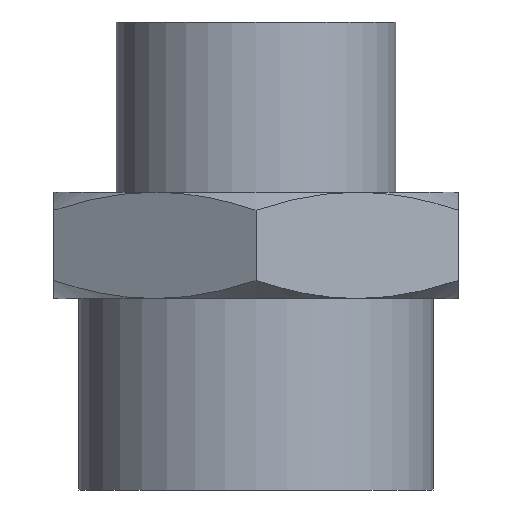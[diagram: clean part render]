
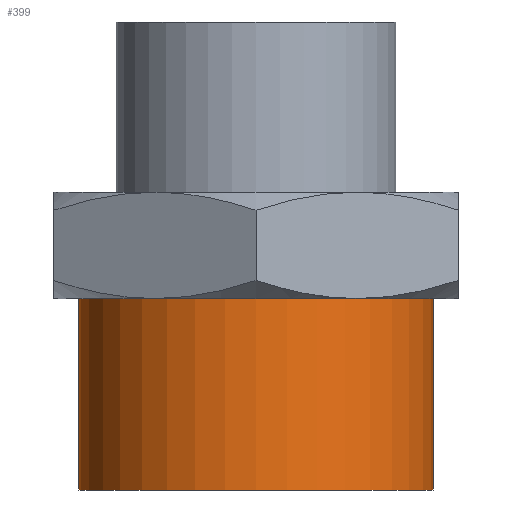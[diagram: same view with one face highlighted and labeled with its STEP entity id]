
A CAD part, front view. The second image highlights one B-rep face of the part: STEP entity #399.
In plain terms, the highlighted cylindrical face has radius 8.331 mm (diameter 16.662 mm), a full revolution.
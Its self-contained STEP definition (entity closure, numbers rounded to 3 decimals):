
#72=FACE_OUTER_BOUND('',#98,.T.);
#98=EDGE_LOOP('',(#281,#282,#283,#284,#285,#286));
#119=LINE('',#667,#128);
#128=VECTOR('',#527,8.331);
#145=CIRCLE('',#453,8.331);
#146=CIRCLE('',#454,8.331);
#147=CIRCLE('',#456,8.331);
#148=CIRCLE('',#457,8.331);
#174=VERTEX_POINT('',#661);
#175=VERTEX_POINT('',#662);
#176=VERTEX_POINT('',#666);
#177=VERTEX_POINT('',#668);
#216=EDGE_CURVE('',#174,#175,#145,.T.);
#217=EDGE_CURVE('',#175,#174,#146,.T.);
#218=EDGE_CURVE('',#175,#176,#119,.T.);
#219=EDGE_CURVE('',#177,#176,#147,.T.);
#220=EDGE_CURVE('',#176,#177,#148,.T.);
#281=ORIENTED_EDGE('',*,*,#216,.T.);
#282=ORIENTED_EDGE('',*,*,#218,.T.);
#283=ORIENTED_EDGE('',*,*,#219,.F.);
#284=ORIENTED_EDGE('',*,*,#220,.F.);
#285=ORIENTED_EDGE('',*,*,#218,.F.);
#286=ORIENTED_EDGE('',*,*,#217,.T.);
#363=CYLINDRICAL_SURFACE('',#455,8.331);
#399=ADVANCED_FACE('',(#72),#363,.T.);
#453=AXIS2_PLACEMENT_3D('',#663,#521,#522);
#454=AXIS2_PLACEMENT_3D('',#664,#523,#524);
#455=AXIS2_PLACEMENT_3D('',#665,#525,#526);
#456=AXIS2_PLACEMENT_3D('',#669,#528,#529);
#457=AXIS2_PLACEMENT_3D('',#670,#530,#531);
#521=DIRECTION('center_axis',(0.,0.,-1.));
#522=DIRECTION('ref_axis',(1.,0.,0.));
#523=DIRECTION('center_axis',(0.,0.,-1.));
#524=DIRECTION('ref_axis',(1.,0.,0.));
#525=DIRECTION('center_axis',(0.,0.,-1.));
#526=DIRECTION('ref_axis',(0.,-1.,0.));
#527=DIRECTION('',(0.,0.,-1.));
#528=DIRECTION('center_axis',(0.,0.,-1.));
#529=DIRECTION('ref_axis',(0.,-1.,0.));
#530=DIRECTION('center_axis',(0.,0.,-1.));
#531=DIRECTION('ref_axis',(0.,-1.,0.));
#661=CARTESIAN_POINT('',(0.,-8.331,9.));
#662=CARTESIAN_POINT('',(0.,8.331,9.));
#663=CARTESIAN_POINT('Origin',(0.,0.,9.));
#664=CARTESIAN_POINT('Origin',(0.,0.,9.));
#665=CARTESIAN_POINT('Origin',(0.,0.,4.5));
#666=CARTESIAN_POINT('',(0.,8.331,0.));
#667=CARTESIAN_POINT('',(0.,8.331,4.5));
#668=CARTESIAN_POINT('',(0.,-8.331,0.));
#669=CARTESIAN_POINT('Origin',(0.,0.,0.));
#670=CARTESIAN_POINT('Origin',(0.,0.,0.));
